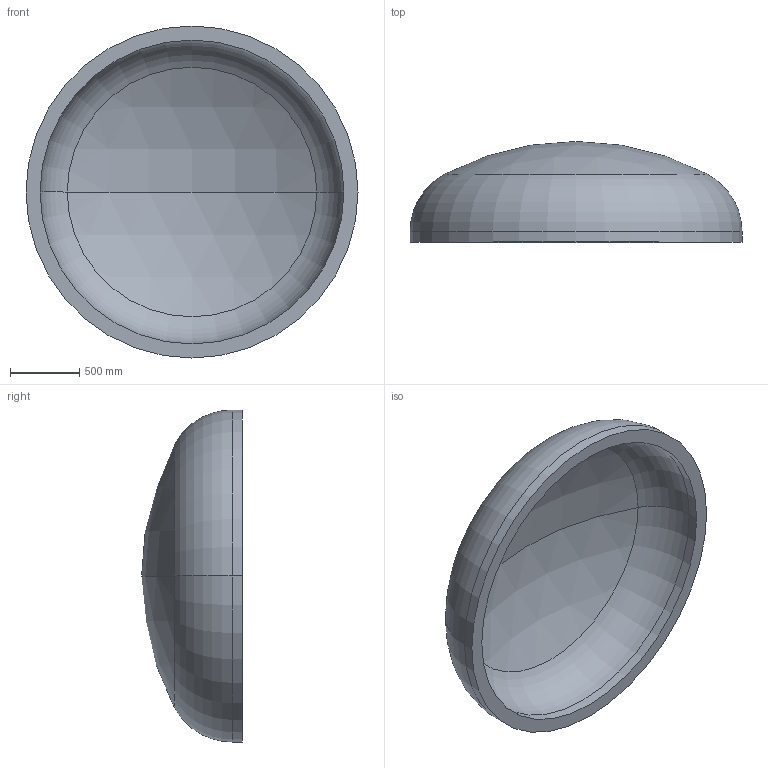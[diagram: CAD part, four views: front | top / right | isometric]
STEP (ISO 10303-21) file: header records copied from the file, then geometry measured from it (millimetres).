
FILE_DESCRIPTION (( 'STEP AP203' ), '1' );
FILE_NAME ('DIN 28013 Korbbogenform_-_Boden DIN 28013 - 2400 x 75 - I - s=102.step', '2016-07-01T15:42:43', ( '' ), ( '' ), 'SwSTEP 2.0', 'SolidWorks 2013', '' );
FILE_SCHEMA (( 'CONFIG_CONTROL_DESIGN' ));
Length unit declared in the file: millimetre
Products named in the file (1): DIN 28013 Korbbogenform_-_Boden DIN 28013 - 2400 x 75 - I - s=102
Bounding box: 2400 x 728.6 x 2400 mm (x, y, z)
Volume: 660273297.7 mm3; surface area: 13704698.2 mm2
Topology: 1 solids, 1 shells, 13 faces, 24 edges, 14 vertices
Faces by surface type: torus 4, cylinder 4, sphere 4, plane 1
Entity records: 407 total; most frequent: DIRECTION 72, CARTESIAN_POINT 52, ORIENTED_EDGE 48, AXIS2_PLACEMENT_3D 34, EDGE_CURVE 24, CIRCLE 20, VERTEX_POINT 14, EDGE_LOOP 14
